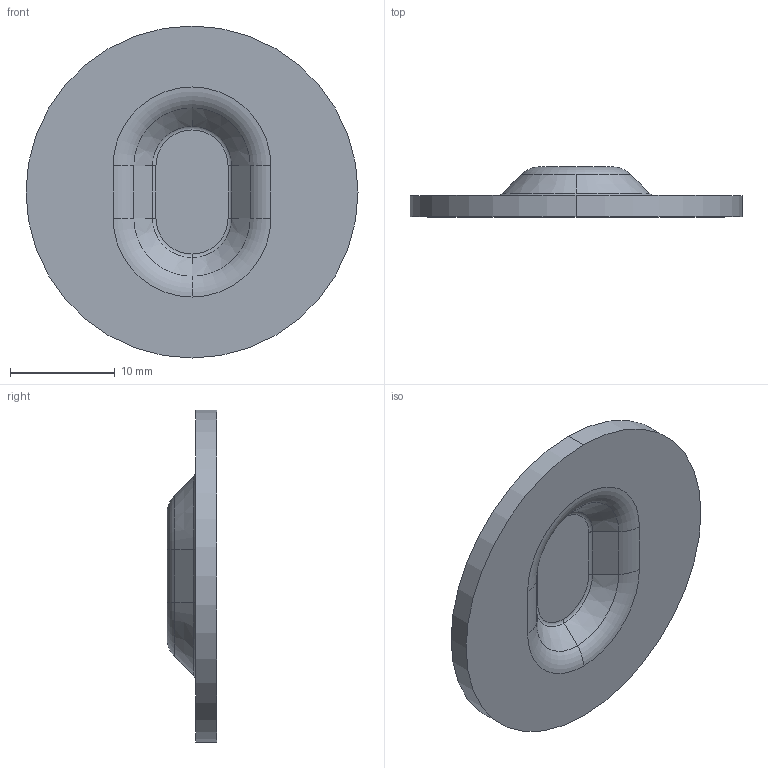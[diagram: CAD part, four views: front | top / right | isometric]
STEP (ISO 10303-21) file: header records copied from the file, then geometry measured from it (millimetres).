
FILE_DESCRIPTION (( 'STEP AP203' ), '1' );
FILE_NAME ('639954-10.STEP', '2024-11-18T14:20:47', ( '' ), ( '' ), 'SwSTEP 2.0', 'SolidWorks 2024', '' );
FILE_SCHEMA (( 'CONFIG_CONTROL_DESIGN' ));
Length unit declared in the file: inch
Products named in the file (1): 639954-10
Bounding box: 31.75 x 4.78 x 31.75 mm (x, y, z)
Volume: 1697.9 mm3; surface area: 1873.9 mm2
Topology: 1 solids, 1 shells, 38 faces, 82 edges, 48 vertices
Faces by surface type: torus 12, cylinder 10, cone 8, plane 8
Entity records: 1117 total; most frequent: DIRECTION 212, CARTESIAN_POINT 169, ORIENTED_EDGE 164, AXIS2_PLACEMENT_3D 91, EDGE_CURVE 82, CIRCLE 52, VERTEX_POINT 48, EDGE_LOOP 40
